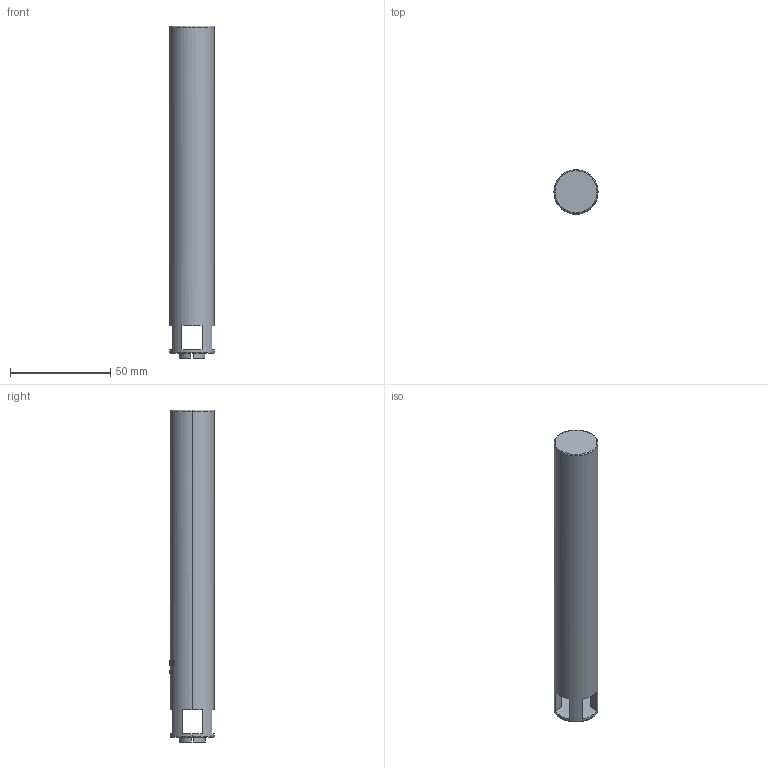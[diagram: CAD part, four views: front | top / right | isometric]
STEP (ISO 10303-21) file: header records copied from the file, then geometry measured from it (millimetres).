
FILE_DESCRIPTION((''),'2;1');
FILE_NAME('PRT0085','2026-01-23T17:28:34',('28740194'),(''),'CREO PARAMETRIC BY PTC INC, 2024063','CREO PARAMETRIC BY PTC INC, 2024063','');
FILE_SCHEMA(('CONFIG_CONTROL_DESIGN'));
Length unit declared in the file: millimetre
Products named in the file (1): PRT0085
Bounding box: 22 x 22.12 x 165.8 mm (x, y, z)
Volume: 58501.3 mm3; surface area: 12852 mm2
Topology: 1 solids, 1 shells, 453 faces, 1292 edges, 860 vertices
Faces by surface type: bspline 400, cylinder 25, plane 24, torus 4
Entity records: 19846 total; most frequent: CARTESIAN_POINT 10863, ORIENTED_EDGE 2584, EDGE_CURVE 1292, B_SPLINE_CURVE_WITH_KNOTS 928, VERTEX_POINT 860, DIRECTION 630, EDGE_LOOP 478, FACE_OUTER_BOUND 453
